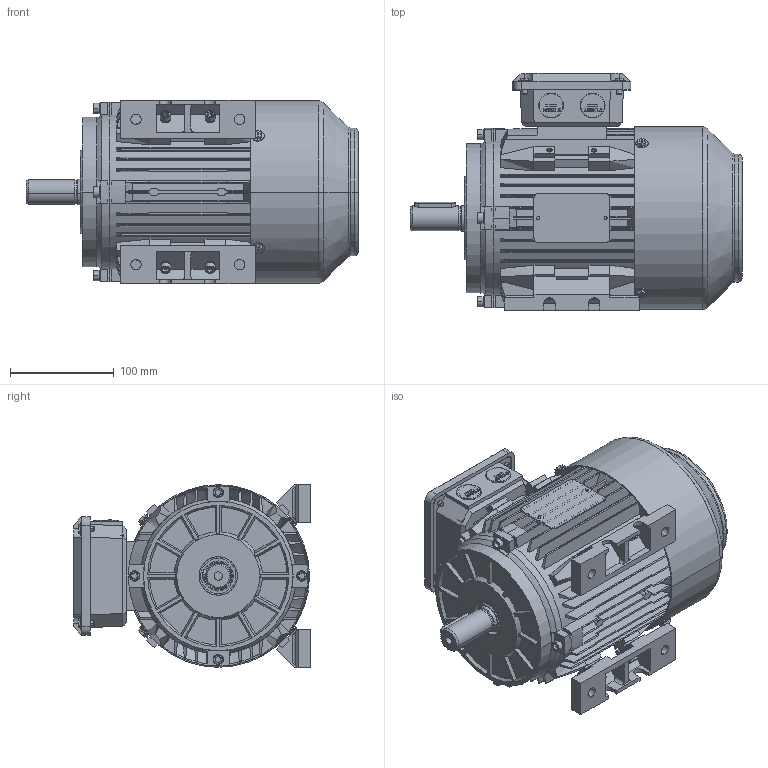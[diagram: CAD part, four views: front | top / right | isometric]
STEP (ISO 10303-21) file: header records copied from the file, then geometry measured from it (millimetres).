
FILE_DESCRIPTION (( 'STEP AP203' ), '1' );
FILE_NAME ('TC 90S B3 装配体.STEP', '2013-12-17T02:24:57', ( '微软用户' ), ( '微软中国' ), 'SwSTEP 2.0', 'SolidWorks 2008', '' );
FILE_SCHEMA (( 'CONFIG_CONTROL_DESIGN' ));
Length unit declared in the file: millimetre
Products named in the file (22): TC 90S底脚_默认; TC 90S转轴（波形垫在前）_默认; TC 90 B3端盖_默认; M6-20_默认; 6_默认; 5_默认; M5-12_默认; M20螺塞_默认; TC 90S B3 蚾饜极; TC 90S 机座 B5_默认; T90-4定子铁心_默认; TC 90S 转子_默认; T90-4无轴转子_默认; 6205_默认; TC 90-100 接线盒座_默认; TC 90-100 接线盒盖_默认; TC 80-90风叶_默认; 风罩_默认; 镜向M5-12_默认; 镜向5_默认; TC 90平键_默认; 油封25-37-7_默认
Assembly tree (56 placements, depth 3):
  TC 90S B3 蚾饜极
    TC 90S 机座 B5_默认
    风罩_默认
    M6-20_默认  x12
    6_默认  x12
    镜向M5-12_默认  x2
    TC 90 B3端盖_默认  x2
    M5-12_默认  x6
    TC 90S 转子_默认
      T90-4无轴转子_默认
      6205_默认  x2
      TC 90S转轴（波形垫在前）_默认
    M20螺塞_默认  x2
    TC 90S底脚_默认  x2
    油封25-37-7_默认  x2
    5_默认  x2
    TC 90平键_默认
    TC 90-100 接线盒座_默认
    镜向5_默认  x2
    TC 90-100 接线盒盖_默认
    T90-4定子铁心_默认
    TC 80-90风叶_默认
Bounding box: 320 x 228.41 x 177.33 mm (x, y, z)
Volume: 2160382.9 mm3; surface area: 878640.4 mm2
Topology: 59 solids, 60 shells, 3464 faces, 9222 edges, 6000 vertices
Faces by surface type: plane 1816, cylinder 1168, cone 226, torus 134, bspline 120
Entity records: 91789 total; most frequent: CARTESIAN_POINT 23013, ORIENTED_EDGE 13962, DIRECTION 13401, EDGE_CURVE 6981, AXIS2_PLACEMENT_3D 4617, VERTEX_POINT 4575, VECTOR 4167, LINE 4167
